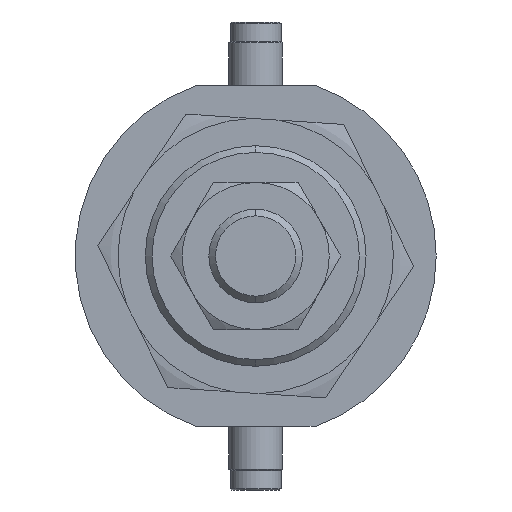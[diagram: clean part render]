
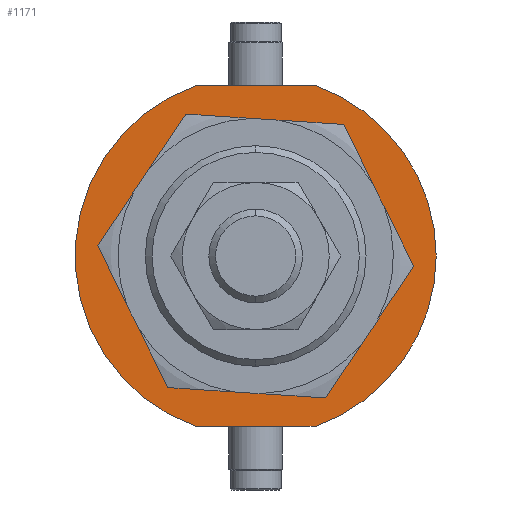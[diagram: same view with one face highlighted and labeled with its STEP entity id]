
A CAD part, left-side view. The second image highlights one B-rep face of the part: STEP entity #1171.
In plain terms, the highlighted planar face has unit normal (-1, 0, 0) as drawn and (0, 1, 0) by its records, which use the part's own axes.
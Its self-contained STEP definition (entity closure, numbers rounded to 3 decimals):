
#67 = ORIENTED_EDGE ( 'NONE', *, *, #3560, .F. ) ;
#87 = DIRECTION ( 'NONE',  ( 0., 1., 0. ) ) ;
#137 = AXIS2_PLACEMENT_3D ( 'NONE', #2032, #87, #3364 ) ;
#151 = CARTESIAN_POINT ( 'NONE',  ( 0., 4.5, 0. ) ) ;
#276 = VERTEX_POINT ( 'NONE', #2104 ) ;
#342 = ORIENTED_EDGE ( 'NONE', *, *, #3452, .T. ) ;
#350 = EDGE_LOOP ( 'NONE', ( #342, #806, #3597, #2865, #981 ) ) ;
#366 = CARTESIAN_POINT ( 'NONE',  ( 25.5, 4.5, 8.874 ) ) ;
#613 = DIRECTION ( 'NONE',  ( 0., 1., 0. ) ) ;
#680 = CIRCLE ( 'NONE', #740, 16.5 ) ;
#684 = DIRECTION ( 'NONE',  ( 0., 0., 1. ) ) ;
#710 = CARTESIAN_POINT ( 'NONE',  ( 0., 4.5, -16.5 ) ) ;
#740 = AXIS2_PLACEMENT_3D ( 'NONE', #1972, #1639, #684 ) ;
#806 = ORIENTED_EDGE ( 'NONE', *, *, #2284, .T. ) ;
#911 = VERTEX_POINT ( 'NONE', #2255 ) ;
#981 = ORIENTED_EDGE ( 'NONE', *, *, #3567, .T. ) ;
#1059 = VERTEX_POINT ( 'NONE', #2360 ) ;
#1067 = EDGE_CURVE ( 'NONE', #2279, #276, #1194, .T. ) ;
#1111 = VECTOR ( 'NONE', #2805, 1000. ) ;
#1114 = LINE ( 'NONE', #2833, #1111 ) ;
#1171 = ADVANCED_FACE ( 'NONE', ( #2556, #2409 ), #2649, .T. ) ;
#1194 = CIRCLE ( 'NONE', #137, 27. ) ;
#1219 = EDGE_CURVE ( 'NONE', #1059, #1959, #680, .T. ) ;
#1459 = VERTEX_POINT ( 'NONE', #366 ) ;
#1462 = EDGE_LOOP ( 'NONE', ( #2337, #67 ) ) ;
#1618 = AXIS2_PLACEMENT_3D ( 'NONE', #3778, #613, #2822 ) ;
#1639 = DIRECTION ( 'NONE',  ( 0., 1., 0. ) ) ;
#1705 = EDGE_CURVE ( 'NONE', #276, #1459, #3423, .T. ) ;
#1882 = CIRCLE ( 'NONE', #1618, 16.5 ) ;
#1913 = CARTESIAN_POINT ( 'NONE',  ( -25.5, 4.5, -8.874 ) ) ;
#1959 = VERTEX_POINT ( 'NONE', #710 ) ;
#1972 = CARTESIAN_POINT ( 'NONE',  ( 0., 4.5, 0. ) ) ;
#2032 = CARTESIAN_POINT ( 'NONE',  ( 0., 4.5, 0. ) ) ;
#2038 = AXIS2_PLACEMENT_3D ( 'NONE', #4114, #4126, #2205 ) ;
#2042 = AXIS2_PLACEMENT_3D ( 'NONE', #151, #3398, #3728 ) ;
#2104 = CARTESIAN_POINT ( 'NONE',  ( 0., 4.5, 27. ) ) ;
#2123 = VERTEX_POINT ( 'NONE', #3714 ) ;
#2205 = DIRECTION ( 'NONE',  ( 0., 0., 1. ) ) ;
#2255 = CARTESIAN_POINT ( 'NONE',  ( 25.5, 4.5, -8.874 ) ) ;
#2279 = VERTEX_POINT ( 'NONE', #4103 ) ;
#2284 = EDGE_CURVE ( 'NONE', #2123, #2279, #2669, .T. ) ;
#2337 = ORIENTED_EDGE ( 'NONE', *, *, #1219, .F. ) ;
#2338 = DIRECTION ( 'NONE',  ( 0., 1., 0. ) ) ;
#2360 = CARTESIAN_POINT ( 'NONE',  ( 0., 4.5, 16.5 ) ) ;
#2409 = FACE_OUTER_BOUND ( 'NONE', #350, .T. ) ;
#2555 = AXIS2_PLACEMENT_3D ( 'NONE', #3582, #2338, #3596 ) ;
#2556 = FACE_BOUND ( 'NONE', #1462, .T. ) ;
#2649 = PLANE ( 'NONE',  #2555 ) ;
#2669 = LINE ( 'NONE', #1913, #3611 ) ;
#2805 = DIRECTION ( 'NONE',  ( 0., 0., -1. ) ) ;
#2822 = DIRECTION ( 'NONE',  ( 0., 0., 1. ) ) ;
#2833 = CARTESIAN_POINT ( 'NONE',  ( 25.5, 4.5, -8.874 ) ) ;
#2865 = ORIENTED_EDGE ( 'NONE', *, *, #1705, .T. ) ;
#3364 = DIRECTION ( 'NONE',  ( 0., 0., 1. ) ) ;
#3398 = DIRECTION ( 'NONE',  ( 0., 1., 0. ) ) ;
#3423 = CIRCLE ( 'NONE', #2038, 27. ) ;
#3452 = EDGE_CURVE ( 'NONE', #911, #2123, #3816, .T. ) ;
#3516 = DIRECTION ( 'NONE',  ( 0., 0., 1. ) ) ;
#3560 = EDGE_CURVE ( 'NONE', #1959, #1059, #1882, .T. ) ;
#3567 = EDGE_CURVE ( 'NONE', #1459, #911, #1114, .T. ) ;
#3582 = CARTESIAN_POINT ( 'NONE',  ( 0., 4.5, 0. ) ) ;
#3596 = DIRECTION ( 'NONE',  ( 0., 0., 1. ) ) ;
#3597 = ORIENTED_EDGE ( 'NONE', *, *, #1067, .T. ) ;
#3611 = VECTOR ( 'NONE', #3516, 1000. ) ;
#3714 = CARTESIAN_POINT ( 'NONE',  ( -25.5, 4.5, -8.874 ) ) ;
#3728 = DIRECTION ( 'NONE',  ( 0., 0., 1. ) ) ;
#3778 = CARTESIAN_POINT ( 'NONE',  ( 0., 4.5, 0. ) ) ;
#3816 = CIRCLE ( 'NONE', #2042, 27. ) ;
#4103 = CARTESIAN_POINT ( 'NONE',  ( -25.5, 4.5, 8.874 ) ) ;
#4114 = CARTESIAN_POINT ( 'NONE',  ( 0., 4.5, 0. ) ) ;
#4126 = DIRECTION ( 'NONE',  ( 0., 1., 0. ) ) ;
